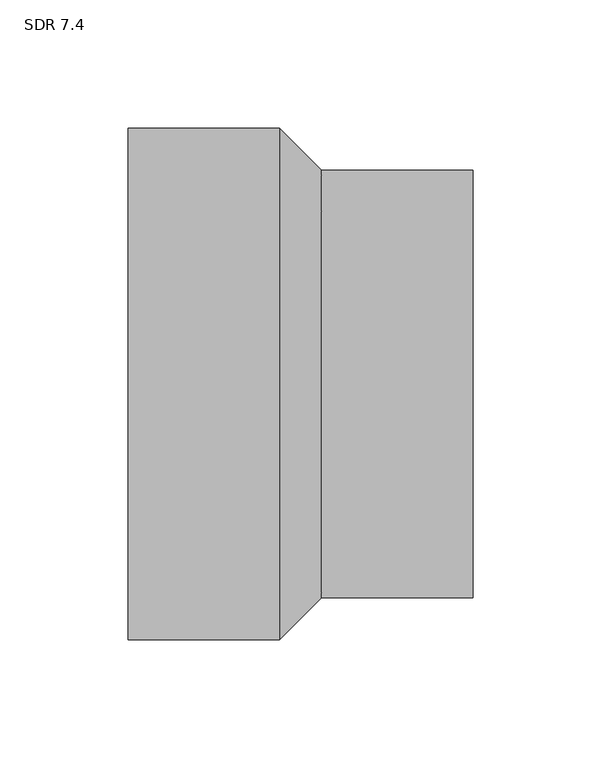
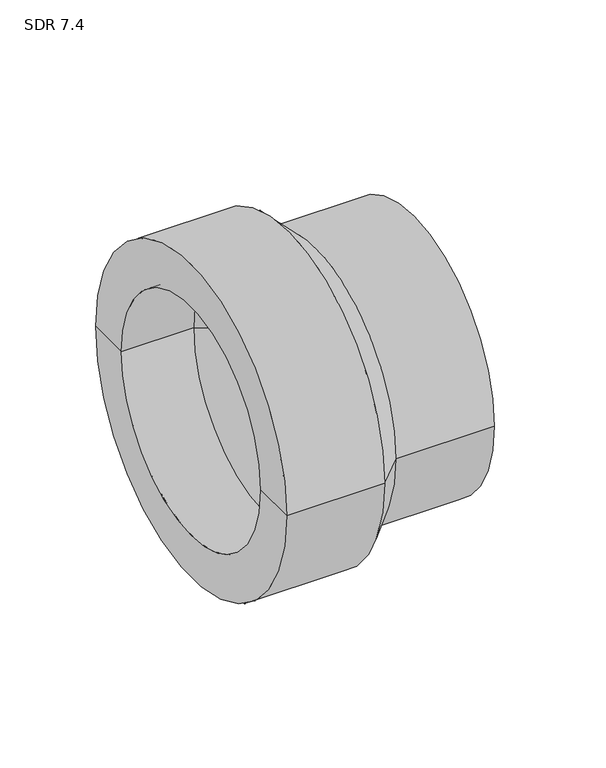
"""IFC4 building model written with IfcOpenShell, lengths in millimetres: pipe fitting geometry, Aquatherm - Reducing Coupling Butt Weld to Socket : SDR 7.4."""

from ifc_helpers import new_model, si_unit, frame, origin, place, context, project, spatial, polyline, circle_curve, source, transform, mapped, element, save
from ifc_brep_helpers import plane_surface, cylinder_surface, revolved_surface, advanced_brep


def sdr_7_4_cb5723d6(model_context):
    return source(origin(), model_context, "Body", "AdvancedBrep", [
        advanced_brep(
        [(30.734, -83.439, 0.0), (30.734, 83.439, 0.0), (89.916, 83.439, 0.0), (89.916, -83.439, 0.0), (89.916, 62.484, 0.0), (89.916, -62.484, 0.0), (-1.27, -73.025, 0.0), (-1.27, 73.025, 0.0), (-44.958, 73.025, 0.0), (-44.958, -73.025, 0.0), (-44.958, 99.949, 0.0), (-44.958, -99.949, 0.0), (50.038, 62.484, 0.0), (50.038, -62.484, 0.0), (50.038, 45.593, 0.0), (50.038, -45.593, 0.0), (42.418, 45.593, 0.0), (42.418, -45.593, 0.0), (14.224, 99.949, 0.0), (14.224, -99.949, 0.0)],
        [
            (0, 1, circle_curve(frame((30.734, 0.0, 0.0), z_axis=(1.0, 0.0, 0.0), x_axis=(0.0, 1.0, 0.0)), 83.439)),
            (1, 2),
            (2, 3, circle_curve(frame((89.916, 0.0, 0.0), z_axis=(-1.0, 0.0, 0.0), x_axis=(0.0, 1.0, 0.0)), 83.439)),
            (3, 0),
            (1, 0, circle_curve(frame((30.734, 0.0, 0.0), z_axis=(1.0, 0.0, 0.0), x_axis=(0.0, 1.0, 0.0)), 83.439)),
            (3, 2, circle_curve(frame((89.916, 0.0, 0.0), z_axis=(-1.0, 0.0, 0.0), x_axis=(0.0, 1.0, 0.0)), 83.439)),
            (2, 4),
            (4, 5, circle_curve(frame((89.916, 0.0, 0.0), z_axis=(-1.0, 0.0, 0.0), x_axis=(0.0, 1.0, 0.0)), 62.484)),
            (5, 3),
            (5, 4, circle_curve(frame((89.916, 0.0, 0.0), z_axis=(-1.0, 0.0, 0.0), x_axis=(0.0, 1.0, 0.0)), 62.484)),
            (6, 7, circle_curve(frame((-1.27, 0.0, 0.0), z_axis=(1.0, 0.0, 0.0), x_axis=(0.0, 1.0, 0.0)), 73.025)),
            (7, 8),
            (8, 9, circle_curve(frame((-44.958, 0.0, 0.0), z_axis=(-1.0, 0.0, 0.0), x_axis=(0.0, 1.0, 0.0)), 73.025)),
            (9, 6),
            (7, 6, circle_curve(frame((-1.27, 0.0, 0.0), z_axis=(1.0, 0.0, 0.0), x_axis=(0.0, 1.0, 0.0)), 73.025)),
            (9, 8, circle_curve(frame((-44.958, 0.0, 0.0), z_axis=(-1.0, 0.0, 0.0), x_axis=(0.0, 1.0, 0.0)), 73.025)),
            (8, 10),
            (10, 11, circle_curve(frame((-44.958, 0.0, 0.0), z_axis=(-1.0, 0.0, 0.0), x_axis=(0.0, 1.0, 0.0)), 99.949)),
            (11, 9),
            (11, 10, circle_curve(frame((-44.958, 0.0, 0.0), z_axis=(-1.0, 0.0, 0.0), x_axis=(0.0, 1.0, 0.0)), 99.949)),
            (4, 12),
            (12, 13, circle_curve(frame((50.038, 0.0, 0.0), z_axis=(-1.0, 0.0, 0.0), x_axis=(0.0, 1.0, 0.0)), 62.484)),
            (13, 5),
            (13, 12, circle_curve(frame((50.038, 0.0, 0.0), z_axis=(-1.0, 0.0, 0.0), x_axis=(0.0, 1.0, 0.0)), 62.484)),
            (12, 14),
            (14, 15, circle_curve(frame((50.038, 0.0, 0.0), z_axis=(-1.0, 0.0, 0.0), x_axis=(0.0, 1.0, 0.0)), 45.593)),
            (15, 13),
            (15, 14, circle_curve(frame((50.038, 0.0, 0.0), z_axis=(-1.0, 0.0, 0.0), x_axis=(0.0, 1.0, 0.0)), 45.593)),
            (14, 16),
            (16, 17, circle_curve(frame((42.418, 0.0, 0.0), z_axis=(-1.0, 0.0, 0.0), x_axis=(0.0, 1.0, 0.0)), 45.593)),
            (17, 15),
            (17, 16, circle_curve(frame((42.418, 0.0, 0.0), z_axis=(-1.0, 0.0, 0.0), x_axis=(0.0, 1.0, 0.0)), 45.593)),
            (10, 18),
            (18, 19, circle_curve(frame((14.224, 0.0, 0.0), z_axis=(-1.0, 0.0, 0.0), x_axis=(0.0, 1.0, 0.0)), 99.949)),
            (19, 11),
            (19, 18, circle_curve(frame((14.224, 0.0, 0.0), z_axis=(-1.0, 0.0, 0.0), x_axis=(0.0, 1.0, 0.0)), 99.949)),
            (16, 7),
            (6, 17),
            (18, 1),
            (0, 19),
        ],
        [
            cylinder_surface(frame((-77.0252293, 0.0, 0.0), z_axis=(-1.0, 0.0, 0.0), x_axis=(0.0, 1.0, 0.0)), 83.439),
            plane_surface(frame((89.916, 0.0, 0.0), z_axis=(1.0, 0.0, 0.0), x_axis=(0.0, 1.0, 0.0))),
            revolved_surface(polyline([(-44.958, 73.025, 0.0), (-1.269999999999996, 73.025, 0.0)]), (-77.0252293, 0.0, 0.0), (-1.0, 0.0, 0.0)),
            plane_surface(frame((-44.958, 0.0, 0.0), z_axis=(-1.0, 0.0, 0.0), x_axis=(0.0, 1.0, 0.0))),
            revolved_surface(polyline([(50.038, 62.484, 0.0), (89.916, 62.484, 0.0)]), (-77.0252293, 0.0, 0.0), (-1.0, 0.0, 0.0)),
            plane_surface(frame((50.038, 0.0, 0.0), z_axis=(1.0, 0.0, 0.0), x_axis=(0.0, 1.0, 0.0))),
            revolved_surface(polyline([(42.418000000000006, 45.593, 0.0), (50.038, 45.593, 0.0)]), (-77.0252293, 0.0, 0.0), (-1.0, 0.0, 0.0)),
            cylinder_surface(frame((-77.0252293, 0.0, 0.0), z_axis=(-1.0, 0.0, 0.0), x_axis=(0.0, 1.0, 0.0)), 99.949),
            revolved_surface(polyline([(-1.27, 73.025, 0.0), (42.418, 45.593, 0.0)]), (-77.0252293, 0.0, 0.0), (-1.0, 0.0, 0.0)),
            revolved_surface(polyline([(30.734, 83.439, 0.0), (14.224, 99.949, 0.0)]), (-77.0252293, 0.0, 0.0), (-1.0, 0.0, 0.0)),
        ],
        [
            (0, [[1, 2, 3, 4]]),
            (0, [[5, -4, 6, -2]]),
            (1, [[-3, 7, 8, 9]]),
            (1, [[-6, -9, 10, -7]]),
            (2, [[11, 12, 13, 14]]),
            (2, [[15, -14, 16, -12]]),
            (3, [[-13, 17, 18, 19]]),
            (3, [[-16, -19, 20, -17]]),
            (4, [[-8, 21, 22, 23]]),
            (4, [[-10, -23, 24, -21]]),
            (5, [[-22, 25, 26, 27]]),
            (5, [[-24, -27, 28, -25]]),
            (6, [[-26, 29, 30, 31]]),
            (6, [[-28, -31, 32, -29]]),
            (7, [[-18, 33, 34, 35]]),
            (7, [[-20, -35, 36, -33]]),
            (8, [[-30, 37, -11, 38]]),
            (8, [[-32, -38, -15, -37]]),
            (9, [[-34, 39, -1, 40]]),
            (9, [[-36, -40, -5, -39]]),
        ],
    ),
    ])


if __name__ == "__main__":
    model = new_model("IFC4")
    model_context = context("Model", 3, world=origin())
    ifc_project = project(units=[si_unit("LENGTHUNIT", "METRE", prefix="MILLI")], contexts=[model_context])
    site = spatial("IfcSite", under=ifc_project)
    building = spatial("IfcBuilding", under=site)
    placement = place(None, origin())
    sdr_7_4_shape = sdr_7_4_cb5723d6(model_context)
    element("IfcPipeFitting", 1, ObjectType="Aquatherm - Reducing Coupling Butt Weld to Socket : SDR 7.4", at=placement, inside=building, context=model_context, shape_type="MappedRepresentation", body=[
        mapped(sdr_7_4_shape, transform((0.0, 0.0, 0.0), x_axis=(1.0, 0.0, 0.0), y_axis=(0.0, 1.0, 0.0), z_axis=(0.0, 0.0, 1.0))),
    ])
    save(model, "model.ifc")
